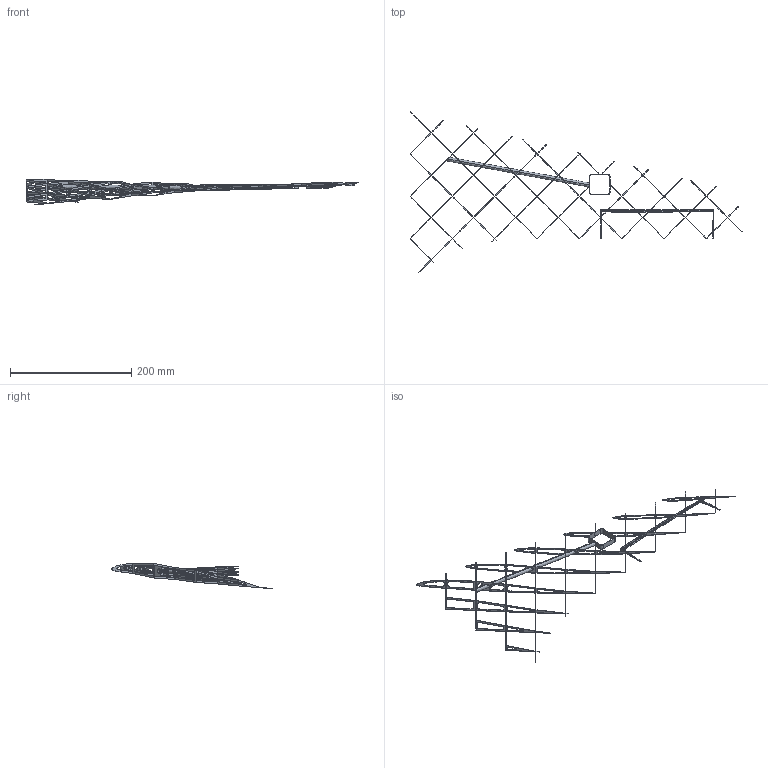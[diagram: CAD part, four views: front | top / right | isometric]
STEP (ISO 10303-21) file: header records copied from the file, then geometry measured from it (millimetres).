
FILE_DESCRIPTION (( 'STEP AP203' ), '1' );
FILE_NAME ('Ribben v5 3D-print.STEP', '2025-11-30T10:45:21', ( '' ), ( '' ), 'SwSTEP 2.0', 'SolidWorks 2024', '' );
FILE_SCHEMA (( 'CONFIG_CONTROL_DESIGN' ));
Products named in the file (1): Ribben v5 3D-print
Bounding box: 546.96 x 264.09 x 41.52 mm (x, y, z)
Volume: 10973.3 mm3; surface area: 51497.9 mm2
Topology: 1 solids, 1 shells, 794 faces, 2372 edges, 1578 vertices
Faces by surface type: plane 339, cylinder 244, bspline 211
Entity records: 82100 total; most frequent: CARTESIAN_POINT 62499, ORIENTED_EDGE 4744, DIRECTION 2977, EDGE_CURVE 2372, VERTEX_POINT 1578, AXIS2_PLACEMENT_3D 1060, B_SPLINE_CURVE_WITH_KNOTS 1039, EDGE_LOOP 986
